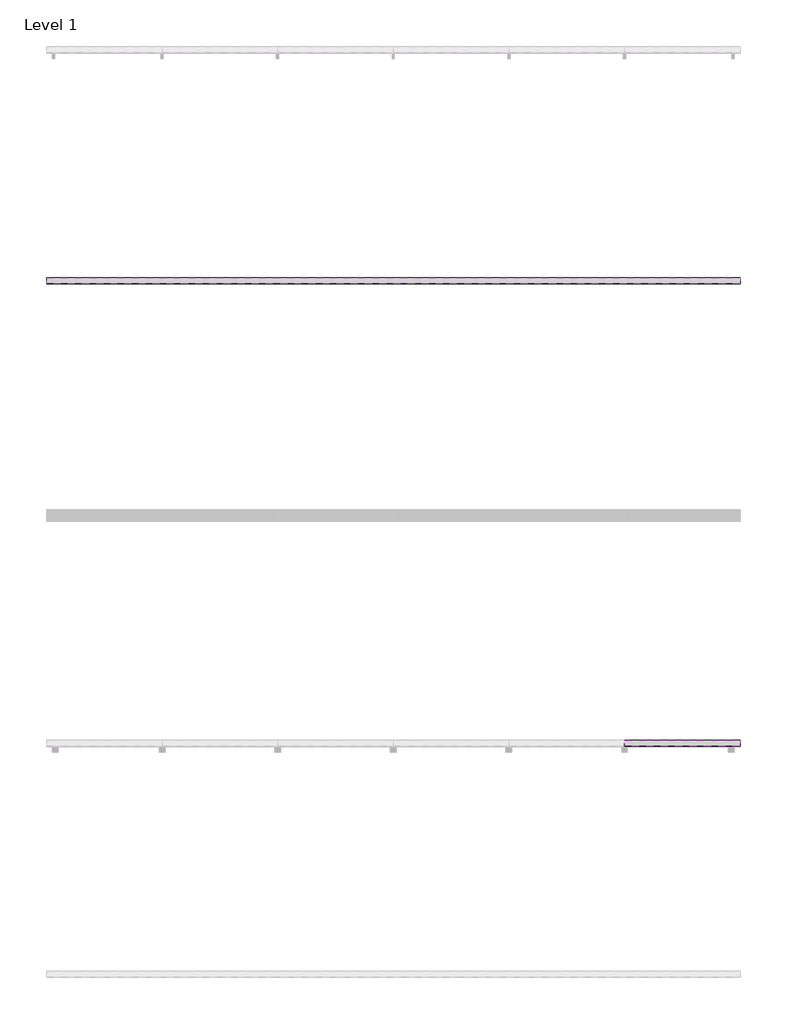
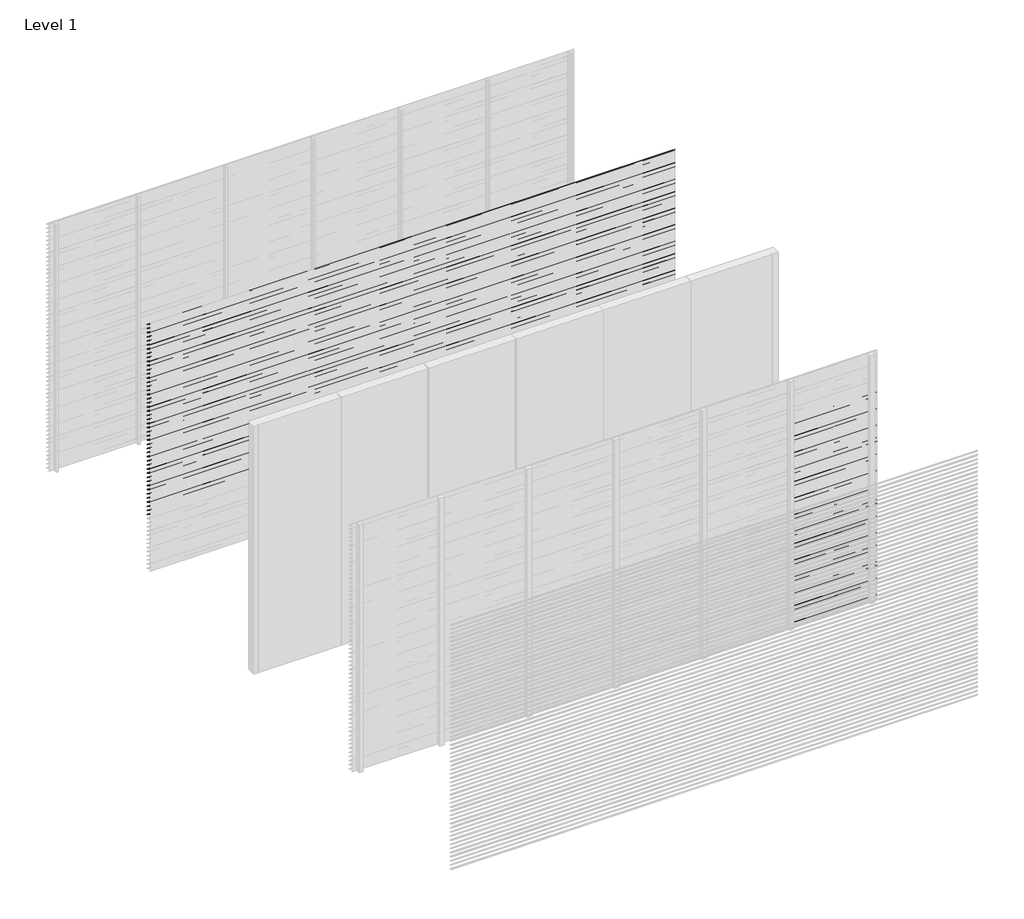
# One storey, part 10 of 18: 97 proxies.
"""IFC4 building model written with IfcOpenShell, lengths in millimetres."""

import ifcopenshell
import ifcopenshell.guid

model = None  # the IFC model being written
_history = None  # IfcOwnerHistory: only IFC2X3 demands one
_inside = {}  # id of a spatial element -> (the spatial element, [elements in it])
_under = {}  # id of a project, library or spatial element -> (it, [spatial elements below it])
_declared = {}  # id of a project -> (the project, [libraries it declares])
_typed = {}  # id of a type object -> (the type object, [elements of that type])
_made_of = {}  # id of a material, layer set ... -> (it, [elements and type objects made of it])


def new_model(schema):
    """Start an empty IFC model of exactly this schema.

    Asked for "IFC4X3", IfcOpenShell would pick the latest addendum, in which some entities
    have other attributes; the version numbers below select the first issue.
    IFC2X3 requires an IfcOwnerHistory on every rooted entity: one is made here for all.
    """
    global model, _history
    if schema == "IFC4X3":
        model = ifcopenshell.file(schema_version=(4, 3, 0, 0))
    else:
        model = ifcopenshell.file(schema=schema)
    _inside.clear()
    _under.clear()
    _declared.clear()
    _typed.clear()
    _made_of.clear()
    _history = None
    if model.schema == "IFC2X3":
        org = make("IfcOrganization", Name="unknown")
        user = make(
            "IfcPersonAndOrganization",
            ThePerson=make("IfcPerson", FamilyName="unknown"),
            TheOrganization=org,
        )
        app = make(
            "IfcApplication",
            ApplicationDeveloper=org,
            Version="unknown",
            ApplicationFullName="unknown",
            ApplicationIdentifier="unknown",
        )
        _history = make(
            "IfcOwnerHistory",
            OwningUser=user,
            OwningApplication=app,
            ChangeAction="ADDED",
            CreationDate=0,
        )
    return model


def make(cls, **values):
    """One entity of the class cls with the attributes given. An attribute that is None is left unset."""
    return model.create_entity(
        cls, **{name: value for name, value in values.items() if value is not None}
    )


def rooted(cls, **values):
    """An entity with a GlobalId (a new one), such as an element, a storey or a relation."""
    return make(cls, GlobalId=ifcopenshell.guid.new(), OwnerHistory=_history, **values)


def si_unit(unit_type, name, prefix=None):
    """IfcSIUnit, for example si_unit("LENGTHUNIT", "METRE", prefix="MILLI")."""
    return make("IfcSIUnit", UnitType=unit_type, Prefix=prefix, Name=name)


def assignment(units):
    """IfcUnitAssignment: the units of a project."""
    return None if units is None else make("IfcUnitAssignment", Units=units)


def point(xyz):
    """IfcCartesianPoint."""
    return None if xyz is None else make("IfcCartesianPoint", Coordinates=xyz)


def direction(xyz):
    """IfcDirection."""
    return None if xyz is None else make("IfcDirection", DirectionRatios=xyz)


def frame(location, z_axis=None, x_axis=None):
    """IfcAxis2Placement3D, a coordinate frame: its origin and axes. An axis left out is left unset."""
    return make(
        "IfcAxis2Placement3D",
        Location=point(location),
        Axis=direction(z_axis),
        RefDirection=direction(x_axis),
    )


def origin():
    """The frame at (0, 0, 0) with its axes left unset."""
    return frame((0.0, 0.0, 0.0))


def place(relative_to, where):
    """IfcLocalPlacement: puts the frame where relative to a parent placement (None: the world)."""
    return make(
        "IfcLocalPlacement", PlacementRelTo=relative_to, RelativePlacement=where
    )


def context(
    kind, dimensions, precision=None, world=None, true_north=None, identifier=None
):
    """IfcGeometricRepresentationContext, for example the 3D "Model" context."""
    return make(
        "IfcGeometricRepresentationContext",
        ContextIdentifier=identifier,
        ContextType=kind,
        CoordinateSpaceDimension=dimensions,
        Precision=precision,
        WorldCoordinateSystem=world,
        TrueNorth=true_north,
    )


def project(units=None, contexts=None):
    """IfcProject with its units and contexts."""
    return rooted(
        "IfcProject",
        Name="project",
        RepresentationContexts=contexts,
        UnitsInContext=assignment(units),
    )


def spatial(cls, under=None, at=None, **own):
    """A site, building, storey or space (cls), placed at a placement, below another one or the project."""
    s = rooted(cls, ObjectPlacement=at, **own)
    if under is not None:
        _under.setdefault(under.id(), (under, []))[1].append(s)
    return s


def polyline(points):
    """IfcPolyline through the points."""
    return make("IfcPolyline", Points=[point(p) for p in points])


def outline(outer, holes=None, kind="AREA"):
    """IfcArbitraryClosedProfileDef: a profile drawn as a closed curve; with holes, ...WithVoids."""
    if holes is None:
        return make("IfcArbitraryClosedProfileDef", ProfileType=kind, OuterCurve=outer)
    return make(
        "IfcArbitraryProfileDefWithVoids",
        ProfileType=kind,
        OuterCurve=outer,
        InnerCurves=holes,
    )


def extrude(swept, where, along, depth):
    """IfcExtrudedAreaSolid: the profile swept, set in the frame where, extruded along a direction by depth."""
    return make(
        "IfcExtrudedAreaSolid",
        SweptArea=swept,
        Position=where,
        ExtrudedDirection=direction(along),
        Depth=depth,
    )


def shape(context_of_items, identifier, shape_type, items):
    """IfcShapeRepresentation: the items that make up one representation, for example the "Body"."""
    return make(
        "IfcShapeRepresentation",
        ContextOfItems=context_of_items,
        RepresentationIdentifier=identifier,
        RepresentationType=shape_type,
        Items=items,
    )


def made_of(thing, what):
    """Note that an element or type object is made of a material, layer set ...; save() writes the relation."""
    if what is not None:
        _made_of.setdefault(what.id(), (what, []))[1].append(thing)
    return thing


def element(
    cls,
    number,
    at=None,
    inside=None,
    cuts=None,
    type_object=None,
    material=None,
    context=None,
    identifier="Body",
    shape_type=None,
    held_by="IfcProductDefinitionShape",
    body=None,
    shapes=None,
    **own,
):
    """One element of the class cls, such as IfcWall. Its Tag is "e" and its number.

    at: its placement. inside: the storey or other place that contains it. cuts: it is an
    opening in that element (IfcRelVoidsElement). A single representation is given by context,
    identifier, shape_type and body (its items); several are given by shapes. held_by: the class
    of the entity that holds the representations. save() writes the other relations.
    """
    e = rooted(cls, Tag="e%d" % number, ObjectPlacement=at, **own)
    if body is not None:
        shapes = [shape(context, identifier, shape_type, body)]
    if shapes is not None:
        e.Representation = make(held_by, Representations=shapes)
    if inside is not None:
        _inside.setdefault(inside.id(), (inside, []))[1].append(e)
    if cuts is not None:
        rooted(
            "IfcRelVoidsElement", RelatingBuildingElement=cuts, RelatedOpeningElement=e
        )
    if type_object is not None:
        _typed.setdefault(type_object.id(), (type_object, []))[1].append(e)
    return made_of(e, material)


def aggregate(whole, parts):
    """IfcRelAggregates: a whole, such as a stair, and the parts it consists of."""
    return rooted("IfcRelAggregates", RelatingObject=whole, RelatedObjects=parts)


def save(model, path):
    """Write the relations noted so far, then the file.

    IfcRelAggregates (storeys below a building ...), IfcRelContainedInSpatialStructure (elements
    in a storey), IfcRelDefinesByType, IfcRelAssociatesMaterial and IfcRelDeclares: one each for
    every whole, place, type object, material and project.
    """
    for whole, parts in _under.values():
        aggregate(whole, parts)
    for where, things in _inside.values():
        rooted(
            "IfcRelContainedInSpatialStructure",
            RelatedElements=things,
            RelatingStructure=where,
        )
    for kind, things in _typed.values():
        rooted("IfcRelDefinesByType", RelatedObjects=things, RelatingType=kind)
    for what, things in _made_of.values():
        rooted("IfcRelAssociatesMaterial", RelatedObjects=things, RelatingMaterial=what)
    for by, libraries in _declared.values():
        rooted("IfcRelDeclares", RelatingContext=by, RelatedDefinitions=libraries)
    model.write(path)


model = new_model("IFC4")

# Units and contexts
model_context = context("Model", 3, world=origin())
ifc_project = project(units=[si_unit("LENGTHUNIT", "METRE", prefix="MILLI")], contexts=[model_context])

# Site, building, storey
site = spatial("IfcSite", under=ifc_project)
building = spatial("IfcBuilding", under=site)
storey = spatial("IfcBuildingStorey", under=building, Name="Level 1", Elevation=0.0)

# Proxies
placement = place(None, origin())
element("IfcBuildingElementProxy", 1, Name="Wall Sweeps", at=placement, inside=storey, context=model_context, shape_type="SweptSolid", body=[
    extrude(outline(polyline([(-7995.0, 3000.0), (-7995.0, 2991.0744429), (-7943.0, 2956.0), (-7943.0, 2950.0), (-7997.0, 2986.4234599), (-7997.0, 3000.0), (-7995.0, 3000.0)])), frame((0.0, 0.0, 0.0), z_axis=(1.0, 0.0, 0.0), x_axis=(0.0, 1.0, 0.0)), (0.0, 0.0, 1.0), 6000.0),
])
element("IfcBuildingElementProxy", 2, Name="Wall Sweeps", at=placement, inside=storey, context=model_context, shape_type="SweptSolid", body=[
    extrude(outline(polyline([(-7995.0, 2950.0), (-7995.0, 2941.0744429), (-7943.0, 2906.0), (-7943.0, 2900.0), (-7997.0, 2936.4234599), (-7997.0, 2950.0), (-7995.0, 2950.0)])), frame((0.0, 0.0, 0.0), z_axis=(1.0, 0.0, 0.0), x_axis=(0.0, 1.0, 0.0)), (0.0, 0.0, 1.0), 6000.0),
])
element("IfcBuildingElementProxy", 3, Name="Wall Sweeps", at=placement, inside=storey, context=model_context, shape_type="SweptSolid", body=[
    extrude(outline(polyline([(-7995.0, 2900.0), (-7995.0, 2891.0744429), (-7943.0, 2856.0), (-7943.0, 2850.0), (-7997.0, 2886.4234599), (-7997.0, 2900.0), (-7995.0, 2900.0)])), frame((0.0, 0.0, 0.0), z_axis=(1.0, 0.0, 0.0), x_axis=(0.0, 1.0, 0.0)), (0.0, 0.0, 1.0), 6000.0),
])
element("IfcBuildingElementProxy", 4, Name="Wall Sweeps", at=placement, inside=storey, context=model_context, shape_type="SweptSolid", body=[
    extrude(outline(polyline([(-7995.0, 2850.0), (-7995.0, 2841.0744429), (-7943.0, 2806.0), (-7943.0, 2800.0), (-7997.0, 2836.4234599), (-7997.0, 2850.0), (-7995.0, 2850.0)])), frame((0.0, 0.0, 0.0), z_axis=(1.0, 0.0, 0.0), x_axis=(0.0, 1.0, 0.0)), (0.0, 0.0, 1.0), 6000.0),
])
element("IfcBuildingElementProxy", 5, Name="Wall Sweeps", at=placement, inside=storey, context=model_context, shape_type="SweptSolid", body=[
    extrude(outline(polyline([(-7995.0, 2800.0), (-7995.0, 2791.0744429), (-7943.0, 2756.0), (-7943.0, 2750.0), (-7997.0, 2786.4234599), (-7997.0, 2800.0), (-7995.0, 2800.0)])), frame((0.0, 0.0, 0.0), z_axis=(1.0, 0.0, 0.0), x_axis=(0.0, 1.0, 0.0)), (0.0, 0.0, 1.0), 6000.0),
])
element("IfcBuildingElementProxy", 6, Name="Wall Sweeps", at=placement, inside=storey, context=model_context, shape_type="SweptSolid", body=[
    extrude(outline(polyline([(-7995.0, 2750.0), (-7995.0, 2741.0744429), (-7943.0, 2706.0), (-7943.0, 2700.0), (-7997.0, 2736.4234599), (-7997.0, 2750.0), (-7995.0, 2750.0)])), frame((0.0, 0.0, 0.0), z_axis=(1.0, 0.0, 0.0), x_axis=(0.0, 1.0, 0.0)), (0.0, 0.0, 1.0), 6000.0),
])
element("IfcBuildingElementProxy", 7, Name="Wall Sweeps", at=placement, inside=storey, context=model_context, shape_type="SweptSolid", body=[
    extrude(outline(polyline([(-7995.0, 2700.0), (-7995.0, 2691.0744429), (-7943.0, 2656.0), (-7943.0, 2650.0), (-7997.0, 2686.4234599), (-7997.0, 2700.0), (-7995.0, 2700.0)])), frame((0.0, 0.0, 0.0), z_axis=(1.0, 0.0, 0.0), x_axis=(0.0, 1.0, 0.0)), (0.0, 0.0, 1.0), 6000.0),
])
element("IfcBuildingElementProxy", 8, Name="Wall Sweeps", at=placement, inside=storey, context=model_context, shape_type="SweptSolid", body=[
    extrude(outline(polyline([(-7995.0, 2650.0), (-7995.0, 2641.0744429), (-7943.0, 2606.0), (-7943.0, 2600.0), (-7997.0, 2636.4234599), (-7997.0, 2650.0), (-7995.0, 2650.0)])), frame((0.0, 0.0, 0.0), z_axis=(1.0, 0.0, 0.0), x_axis=(0.0, 1.0, 0.0)), (0.0, 0.0, 1.0), 6000.0),
])
element("IfcBuildingElementProxy", 9, Name="Wall Sweeps", at=placement, inside=storey, context=model_context, shape_type="SweptSolid", body=[
    extrude(outline(polyline([(-7995.0, 2600.0), (-7995.0, 2591.0744429), (-7943.0, 2556.0), (-7943.0, 2550.0), (-7997.0, 2586.4234599), (-7997.0, 2600.0), (-7995.0, 2600.0)])), frame((0.0, 0.0, 0.0), z_axis=(1.0, 0.0, 0.0), x_axis=(0.0, 1.0, 0.0)), (0.0, 0.0, 1.0), 6000.0),
])
element("IfcBuildingElementProxy", 10, Name="Wall Sweeps", at=placement, inside=storey, context=model_context, shape_type="SweptSolid", body=[
    extrude(outline(polyline([(-7995.0, 2550.0), (-7995.0, 2541.0744429), (-7943.0, 2506.0), (-7943.0, 2500.0), (-7997.0, 2536.4234599), (-7997.0, 2550.0), (-7995.0, 2550.0)])), frame((0.0, 0.0, 0.0), z_axis=(1.0, 0.0, 0.0), x_axis=(0.0, 1.0, 0.0)), (0.0, 0.0, 1.0), 6000.0),
])
element("IfcBuildingElementProxy", 11, Name="Wall Sweeps", at=placement, inside=storey, context=model_context, shape_type="SweptSolid", body=[
    extrude(outline(polyline([(-7995.0, 2500.0), (-7995.0, 2491.0744429), (-7943.0, 2456.0), (-7943.0, 2450.0), (-7997.0, 2486.4234599), (-7997.0, 2500.0), (-7995.0, 2500.0)])), frame((0.0, 0.0, 0.0), z_axis=(1.0, 0.0, 0.0), x_axis=(0.0, 1.0, 0.0)), (0.0, 0.0, 1.0), 6000.0),
])
element("IfcBuildingElementProxy", 12, Name="Wall Sweeps", at=placement, inside=storey, context=model_context, shape_type="SweptSolid", body=[
    extrude(outline(polyline([(-7995.0, 2450.0), (-7995.0, 2441.0744429), (-7943.0, 2406.0), (-7943.0, 2400.0), (-7997.0, 2436.4234599), (-7997.0, 2450.0), (-7995.0, 2450.0)])), frame((0.0, 0.0, 0.0), z_axis=(1.0, 0.0, 0.0), x_axis=(0.0, 1.0, 0.0)), (0.0, 0.0, 1.0), 6000.0),
])
element("IfcBuildingElementProxy", 13, Name="Wall Sweeps", at=placement, inside=storey, context=model_context, shape_type="SweptSolid", body=[
    extrude(outline(polyline([(-7995.0, 2400.0), (-7995.0, 2391.0744429), (-7943.0, 2356.0), (-7943.0, 2350.0), (-7997.0, 2386.4234599), (-7997.0, 2400.0), (-7995.0, 2400.0)])), frame((0.0, 0.0, 0.0), z_axis=(1.0, 0.0, 0.0), x_axis=(0.0, 1.0, 0.0)), (0.0, 0.0, 1.0), 6000.0),
])
element("IfcBuildingElementProxy", 14, Name="Wall Sweeps", at=placement, inside=storey, context=model_context, shape_type="SweptSolid", body=[
    extrude(outline(polyline([(-7995.0, 2350.0), (-7995.0, 2341.0744429), (-7943.0, 2306.0), (-7943.0, 2300.0), (-7997.0, 2336.4234599), (-7997.0, 2350.0), (-7995.0, 2350.0)])), frame((0.0, 0.0, 0.0), z_axis=(1.0, 0.0, 0.0), x_axis=(0.0, 1.0, 0.0)), (0.0, 0.0, 1.0), 6000.0),
])
element("IfcBuildingElementProxy", 15, Name="Wall Sweeps", at=placement, inside=storey, context=model_context, shape_type="SweptSolid", body=[
    extrude(outline(polyline([(-7995.0, 2300.0), (-7995.0, 2291.0744429), (-7943.0, 2256.0), (-7943.0, 2250.0), (-7997.0, 2286.4234599), (-7997.0, 2300.0), (-7995.0, 2300.0)])), frame((0.0, 0.0, 0.0), z_axis=(1.0, 0.0, 0.0), x_axis=(0.0, 1.0, 0.0)), (0.0, 0.0, 1.0), 6000.0),
])
element("IfcBuildingElementProxy", 16, Name="Wall Sweeps", at=placement, inside=storey, context=model_context, shape_type="SweptSolid", body=[
    extrude(outline(polyline([(-7995.0, 2250.0), (-7995.0, 2241.0744429), (-7943.0, 2206.0), (-7943.0, 2200.0), (-7997.0, 2236.4234599), (-7997.0, 2250.0), (-7995.0, 2250.0)])), frame((0.0, 0.0, 0.0), z_axis=(1.0, 0.0, 0.0), x_axis=(0.0, 1.0, 0.0)), (0.0, 0.0, 1.0), 6000.0),
])
element("IfcBuildingElementProxy", 17, Name="Wall Sweeps", at=placement, inside=storey, context=model_context, shape_type="SweptSolid", body=[
    extrude(outline(polyline([(-7995.0, 2200.0), (-7995.0, 2191.0744429), (-7943.0, 2156.0), (-7943.0, 2150.0), (-7997.0, 2186.4234599), (-7997.0, 2200.0), (-7995.0, 2200.0)])), frame((0.0, 0.0, 0.0), z_axis=(1.0, 0.0, 0.0), x_axis=(0.0, 1.0, 0.0)), (0.0, 0.0, 1.0), 6000.0),
])
element("IfcBuildingElementProxy", 18, Name="Wall Sweeps", at=placement, inside=storey, context=model_context, shape_type="SweptSolid", body=[
    extrude(outline(polyline([(-7995.0, 2150.0), (-7995.0, 2141.0744429), (-7943.0, 2106.0), (-7943.0, 2100.0), (-7997.0, 2136.4234599), (-7997.0, 2150.0), (-7995.0, 2150.0)])), frame((0.0, 0.0, 0.0), z_axis=(1.0, 0.0, 0.0), x_axis=(0.0, 1.0, 0.0)), (0.0, 0.0, 1.0), 6000.0),
])
element("IfcBuildingElementProxy", 19, Name="Wall Sweeps", at=placement, inside=storey, context=model_context, shape_type="SweptSolid", body=[
    extrude(outline(polyline([(-7995.0, 2100.0), (-7995.0, 2091.0744429), (-7943.0, 2056.0), (-7943.0, 2050.0), (-7997.0, 2086.4234599), (-7997.0, 2100.0), (-7995.0, 2100.0)])), frame((0.0, 0.0, 0.0), z_axis=(1.0, 0.0, 0.0), x_axis=(0.0, 1.0, 0.0)), (0.0, 0.0, 1.0), 6000.0),
])
element("IfcBuildingElementProxy", 20, Name="Wall Sweeps", at=placement, inside=storey, context=model_context, shape_type="SweptSolid", body=[
    extrude(outline(polyline([(-7995.0, 2050.0), (-7995.0, 2041.0744429), (-7943.0, 2006.0), (-7943.0, 2000.0), (-7997.0, 2036.4234599), (-7997.0, 2050.0), (-7995.0, 2050.0)])), frame((0.0, 0.0, 0.0), z_axis=(1.0, 0.0, 0.0), x_axis=(0.0, 1.0, 0.0)), (0.0, 0.0, 1.0), 6000.0),
])
element("IfcBuildingElementProxy", 21, Name="Wall Sweeps", at=placement, inside=storey, context=model_context, shape_type="SweptSolid", body=[
    extrude(outline(polyline([(-7995.0, 2000.0), (-7995.0, 1991.0744429), (-7943.0, 1956.0), (-7943.0, 1950.0), (-7997.0, 1986.4234599), (-7997.0, 2000.0), (-7995.0, 2000.0)])), frame((0.0, 0.0, 0.0), z_axis=(1.0, 0.0, 0.0), x_axis=(0.0, 1.0, 0.0)), (0.0, 0.0, 1.0), 6000.0),
])
element("IfcBuildingElementProxy", 22, Name="Wall Sweeps", at=placement, inside=storey, context=model_context, shape_type="SweptSolid", body=[
    extrude(outline(polyline([(-7995.0, 1950.0), (-7995.0, 1941.0744429), (-7943.0, 1906.0), (-7943.0, 1900.0), (-7997.0, 1936.4234599), (-7997.0, 1950.0), (-7995.0, 1950.0)])), frame((0.0, 0.0, 0.0), z_axis=(1.0, 0.0, 0.0), x_axis=(0.0, 1.0, 0.0)), (0.0, 0.0, 1.0), 6000.0),
])
element("IfcBuildingElementProxy", 23, Name="Wall Sweeps", at=placement, inside=storey, context=model_context, shape_type="SweptSolid", body=[
    extrude(outline(polyline([(-7995.0, 1900.0), (-7995.0, 1891.0744429), (-7943.0, 1856.0), (-7943.0, 1850.0), (-7997.0, 1886.4234599), (-7997.0, 1900.0), (-7995.0, 1900.0)])), frame((0.0, 0.0, 0.0), z_axis=(1.0, 0.0, 0.0), x_axis=(0.0, 1.0, 0.0)), (0.0, 0.0, 1.0), 6000.0),
])
element("IfcBuildingElementProxy", 24, Name="Wall Sweeps", at=placement, inside=storey, context=model_context, shape_type="SweptSolid", body=[
    extrude(outline(polyline([(-7995.0, 1850.0), (-7995.0, 1841.0744429), (-7943.0, 1806.0), (-7943.0, 1800.0), (-7997.0, 1836.4234599), (-7997.0, 1850.0), (-7995.0, 1850.0)])), frame((0.0, 0.0, 0.0), z_axis=(1.0, 0.0, 0.0), x_axis=(0.0, 1.0, 0.0)), (0.0, 0.0, 1.0), 6000.0),
])
element("IfcBuildingElementProxy", 25, Name="Wall Sweeps", at=placement, inside=storey, context=model_context, shape_type="SweptSolid", body=[
    extrude(outline(polyline([(-7995.0, 1800.0), (-7995.0, 1791.0744429), (-7943.0, 1756.0), (-7943.0, 1750.0), (-7997.0, 1786.4234599), (-7997.0, 1800.0), (-7995.0, 1800.0)])), frame((0.0, 0.0, 0.0), z_axis=(1.0, 0.0, 0.0), x_axis=(0.0, 1.0, 0.0)), (0.0, 0.0, 1.0), 6000.0),
])
element("IfcBuildingElementProxy", 26, Name="Wall Sweeps", at=placement, inside=storey, context=model_context, shape_type="SweptSolid", body=[
    extrude(outline(polyline([(-7995.0, 1750.0), (-7995.0, 1741.0744429), (-7943.0, 1706.0), (-7943.0, 1700.0), (-7997.0, 1736.4234599), (-7997.0, 1750.0), (-7995.0, 1750.0)])), frame((0.0, 0.0, 0.0), z_axis=(1.0, 0.0, 0.0), x_axis=(0.0, 1.0, 0.0)), (0.0, 0.0, 1.0), 6000.0),
])
element("IfcBuildingElementProxy", 27, Name="Wall Sweeps", at=placement, inside=storey, context=model_context, shape_type="SweptSolid", body=[
    extrude(outline(polyline([(-7995.0, 1700.0), (-7995.0, 1691.0744429), (-7943.0, 1656.0), (-7943.0, 1650.0), (-7997.0, 1686.4234599), (-7997.0, 1700.0), (-7995.0, 1700.0)])), frame((0.0, 0.0, 0.0), z_axis=(1.0, 0.0, 0.0), x_axis=(0.0, 1.0, 0.0)), (0.0, 0.0, 1.0), 6000.0),
])
element("IfcBuildingElementProxy", 28, Name="Wall Sweeps", at=placement, inside=storey, context=model_context, shape_type="SweptSolid", body=[
    extrude(outline(polyline([(-7995.0, 1650.0), (-7995.0, 1641.0744429), (-7943.0, 1606.0), (-7943.0, 1600.0), (-7997.0, 1636.4234599), (-7997.0, 1650.0), (-7995.0, 1650.0)])), frame((0.0, 0.0, 0.0), z_axis=(1.0, 0.0, 0.0), x_axis=(0.0, 1.0, 0.0)), (0.0, 0.0, 1.0), 6000.0),
])
element("IfcBuildingElementProxy", 29, Name="Wall Sweeps", at=placement, inside=storey, context=model_context, shape_type="SweptSolid", body=[
    extrude(outline(polyline([(-7995.0, 1600.0), (-7995.0, 1591.0744429), (-7943.0, 1556.0), (-7943.0, 1550.0), (-7997.0, 1586.4234599), (-7997.0, 1600.0), (-7995.0, 1600.0)])), frame((0.0, 0.0, 0.0), z_axis=(1.0, 0.0, 0.0), x_axis=(0.0, 1.0, 0.0)), (0.0, 0.0, 1.0), 6000.0),
])
element("IfcBuildingElementProxy", 30, Name="Wall Sweeps", at=placement, inside=storey, context=model_context, shape_type="SweptSolid", body=[
    extrude(outline(polyline([(-7995.0, 1550.0), (-7995.0, 1541.0744429), (-7943.0, 1506.0), (-7943.0, 1500.0), (-7997.0, 1536.4234599), (-7997.0, 1550.0), (-7995.0, 1550.0)])), frame((0.0, 0.0, 0.0), z_axis=(1.0, 0.0, 0.0), x_axis=(0.0, 1.0, 0.0)), (0.0, 0.0, 1.0), 6000.0),
])
element("IfcBuildingElementProxy", 31, Name="Wall Sweeps", at=placement, inside=storey, context=model_context, shape_type="SweptSolid", body=[
    extrude(outline(polyline([(-7995.0, 1500.0), (-7995.0, 1491.0744429), (-7943.0, 1456.0), (-7943.0, 1450.0), (-7997.0, 1486.4234599), (-7997.0, 1500.0), (-7995.0, 1500.0)])), frame((0.0, 0.0, 0.0), z_axis=(1.0, 0.0, 0.0), x_axis=(0.0, 1.0, 0.0)), (0.0, 0.0, 1.0), 6000.0),
])
element("IfcBuildingElementProxy", 32, Name="Wall Sweeps", at=placement, inside=storey, context=model_context, shape_type="SweptSolid", body=[
    extrude(outline(polyline([(-7995.0, 1450.0), (-7995.0, 1441.0744429), (-7943.0, 1406.0), (-7943.0, 1400.0), (-7997.0, 1436.4234599), (-7997.0, 1450.0), (-7995.0, 1450.0)])), frame((0.0, 0.0, 0.0), z_axis=(1.0, 0.0, 0.0), x_axis=(0.0, 1.0, 0.0)), (0.0, 0.0, 1.0), 6000.0),
])
element("IfcBuildingElementProxy", 33, Name="Wall Sweeps", at=placement, inside=storey, context=model_context, shape_type="SweptSolid", body=[
    extrude(outline(polyline([(-7995.0, 1400.0), (-7995.0, 1391.0744429), (-7943.0, 1356.0), (-7943.0, 1350.0), (-7997.0, 1386.4234599), (-7997.0, 1400.0), (-7995.0, 1400.0)])), frame((0.0, 0.0, 0.0), z_axis=(1.0, 0.0, 0.0), x_axis=(0.0, 1.0, 0.0)), (0.0, 0.0, 1.0), 6000.0),
])
element("IfcBuildingElementProxy", 34, Name="Wall Sweeps", at=placement, inside=storey, context=model_context, shape_type="SweptSolid", body=[
    extrude(outline(polyline([(-7995.0, 1350.0), (-7995.0, 1341.0744429), (-7943.0, 1306.0), (-7943.0, 1300.0), (-7997.0, 1336.4234599), (-7997.0, 1350.0), (-7995.0, 1350.0)])), frame((0.0, 0.0, 0.0), z_axis=(1.0, 0.0, 0.0), x_axis=(0.0, 1.0, 0.0)), (0.0, 0.0, 1.0), 6000.0),
])
element("IfcBuildingElementProxy", 35, Name="Wall Sweeps", at=placement, inside=storey, context=model_context, shape_type="SweptSolid", body=[
    extrude(outline(polyline([(-7995.0, 1300.0), (-7995.0, 1291.0744429), (-7943.0, 1256.0), (-7943.0, 1250.0), (-7997.0, 1286.4234599), (-7997.0, 1300.0), (-7995.0, 1300.0)])), frame((0.0, 0.0, 0.0), z_axis=(1.0, 0.0, 0.0), x_axis=(0.0, 1.0, 0.0)), (0.0, 0.0, 1.0), 6000.0),
])
element("IfcBuildingElementProxy", 36, Name="Wall Sweeps", at=placement, inside=storey, context=model_context, shape_type="SweptSolid", body=[
    extrude(outline(polyline([(-7995.0, 1250.0), (-7995.0, 1241.0744429), (-7943.0, 1206.0), (-7943.0, 1200.0), (-7997.0, 1236.4234599), (-7997.0, 1250.0), (-7995.0, 1250.0)])), frame((0.0, 0.0, 0.0), z_axis=(1.0, 0.0, 0.0), x_axis=(0.0, 1.0, 0.0)), (0.0, 0.0, 1.0), 6000.0),
])
element("IfcBuildingElementProxy", 37, Name="Wall Sweeps", at=placement, inside=storey, context=model_context, shape_type="SweptSolid", body=[
    extrude(outline(polyline([(-7995.0, 1200.0), (-7995.0, 1191.0744429), (-7943.0, 1156.0), (-7943.0, 1150.0), (-7997.0, 1186.4234599), (-7997.0, 1200.0), (-7995.0, 1200.0)])), frame((0.0, 0.0, 0.0), z_axis=(1.0, 0.0, 0.0), x_axis=(0.0, 1.0, 0.0)), (0.0, 0.0, 1.0), 6000.0),
])
element("IfcBuildingElementProxy", 38, Name="Wall Sweeps", at=placement, inside=storey, context=model_context, shape_type="SweptSolid", body=[
    extrude(outline(polyline([(-7995.0, 1150.0), (-7995.0, 1141.0744429), (-7943.0, 1106.0), (-7943.0, 1100.0), (-7997.0, 1136.4234599), (-7997.0, 1150.0), (-7995.0, 1150.0)])), frame((0.0, 0.0, 0.0), z_axis=(1.0, 0.0, 0.0), x_axis=(0.0, 1.0, 0.0)), (0.0, 0.0, 1.0), 6000.0),
])
element("IfcBuildingElementProxy", 39, Name="Wall Sweeps", at=placement, inside=storey, context=model_context, shape_type="SweptSolid", body=[
    extrude(outline(polyline([(-7995.0, 1100.0), (-7995.0, 1091.0744429), (-7943.0, 1056.0), (-7943.0, 1050.0), (-7997.0, 1086.4234599), (-7997.0, 1100.0), (-7995.0, 1100.0)])), frame((0.0, 0.0, 0.0), z_axis=(1.0, 0.0, 0.0), x_axis=(0.0, 1.0, 0.0)), (0.0, 0.0, 1.0), 6000.0),
])
element("IfcBuildingElementProxy", 40, Name="Wall Sweeps", at=placement, inside=storey, context=model_context, shape_type="SweptSolid", body=[
    extrude(outline(polyline([(-7995.0, 1050.0), (-7995.0, 1041.0744429), (-7943.0, 1006.0), (-7943.0, 1000.0), (-7997.0, 1036.4234599), (-7997.0, 1050.0), (-7995.0, 1050.0)])), frame((0.0, 0.0, 0.0), z_axis=(1.0, 0.0, 0.0), x_axis=(0.0, 1.0, 0.0)), (0.0, 0.0, 1.0), 6000.0),
])
element("IfcBuildingElementProxy", 41, Name="Wall Sweeps", at=placement, inside=storey, context=model_context, shape_type="SweptSolid", body=[
    extrude(outline(polyline([(-7995.0, 1000.0), (-7995.0, 991.0744429), (-7943.0, 956.0), (-7943.0, 950.0), (-7997.0, 986.4234599), (-7997.0, 1000.0), (-7995.0, 1000.0)])), frame((0.0, 0.0, 0.0), z_axis=(1.0, 0.0, 0.0), x_axis=(0.0, 1.0, 0.0)), (0.0, 0.0, 1.0), 6000.0),
])
element("IfcBuildingElementProxy", 42, Name="Wall Sweeps", at=placement, inside=storey, context=model_context, shape_type="SweptSolid", body=[
    extrude(outline(polyline([(-7995.0, 950.0), (-7995.0, 941.0744429), (-7943.0, 906.0), (-7943.0, 900.0), (-7997.0, 936.4234599), (-7997.0, 950.0), (-7995.0, 950.0)])), frame((0.0, 0.0, 0.0), z_axis=(1.0, 0.0, 0.0), x_axis=(0.0, 1.0, 0.0)), (0.0, 0.0, 1.0), 6000.0),
])
element("IfcBuildingElementProxy", 43, Name="Wall Sweeps", at=placement, inside=storey, context=model_context, shape_type="SweptSolid", body=[
    extrude(outline(polyline([(-7995.0, 900.0), (-7995.0, 891.0744429), (-7943.0, 856.0), (-7943.0, 850.0), (-7997.0, 886.4234599), (-7997.0, 900.0), (-7995.0, 900.0)])), frame((0.0, 0.0, 0.0), z_axis=(1.0, 0.0, 0.0), x_axis=(0.0, 1.0, 0.0)), (0.0, 0.0, 1.0), 6000.0),
])
element("IfcBuildingElementProxy", 44, Name="Wall Sweeps", at=placement, inside=storey, context=model_context, shape_type="SweptSolid", body=[
    extrude(outline(polyline([(-7995.0, 850.0), (-7995.0, 841.0744429), (-7943.0, 806.0), (-7943.0, 800.0), (-7997.0, 836.4234599), (-7997.0, 850.0), (-7995.0, 850.0)])), frame((0.0, 0.0, 0.0), z_axis=(1.0, 0.0, 0.0), x_axis=(0.0, 1.0, 0.0)), (0.0, 0.0, 1.0), 6000.0),
])
element("IfcBuildingElementProxy", 45, Name="Wall Sweeps", at=placement, inside=storey, context=model_context, shape_type="SweptSolid", body=[
    extrude(outline(polyline([(-7995.0, 800.0), (-7995.0, 791.0744429), (-7943.0, 756.0), (-7943.0, 750.0), (-7997.0, 786.4234599), (-7997.0, 800.0), (-7995.0, 800.0)])), frame((0.0, 0.0, 0.0), z_axis=(1.0, 0.0, 0.0), x_axis=(0.0, 1.0, 0.0)), (0.0, 0.0, 1.0), 6000.0),
])
element("IfcBuildingElementProxy", 46, Name="Wall Sweeps", at=placement, inside=storey, context=model_context, shape_type="SweptSolid", body=[
    extrude(outline(polyline([(-7995.0, 750.0), (-7995.0, 741.0744429), (-7943.0, 706.0), (-7943.0, 700.0), (-7997.0, 736.4234599), (-7997.0, 750.0), (-7995.0, 750.0)])), frame((0.0, 0.0, 0.0), z_axis=(1.0, 0.0, 0.0), x_axis=(0.0, 1.0, 0.0)), (0.0, 0.0, 1.0), 6000.0),
])
element("IfcBuildingElementProxy", 47, Name="Wall Sweeps", at=placement, inside=storey, context=model_context, shape_type="SweptSolid", body=[
    extrude(outline(polyline([(-7995.0, 700.0), (-7995.0, 691.0744429), (-7943.0, 656.0), (-7943.0, 650.0), (-7997.0, 686.4234599), (-7997.0, 700.0), (-7995.0, 700.0)])), frame((0.0, 0.0, 0.0), z_axis=(1.0, 0.0, 0.0), x_axis=(0.0, 1.0, 0.0)), (0.0, 0.0, 1.0), 6000.0),
])
element("IfcBuildingElementProxy", 48, Name="Wall Sweeps", at=placement, inside=storey, context=model_context, shape_type="SweptSolid", body=[
    extrude(outline(polyline([(-11995.0, 2500.0), (-11995.0, 2491.0744429), (-11943.0, 2456.0), (-11943.0, 2450.0), (-11997.0, 2486.4234599), (-11997.0, 2500.0), (-11995.0, 2500.0)])), frame((5000.0, 0.0, 0.0), z_axis=(1.0, 0.0, 0.0), x_axis=(0.0, 1.0, 0.0)), (0.0, 0.0, 1.0), 1000.0),
])
element("IfcBuildingElementProxy", 49, Name="Wall Sweeps", at=placement, inside=storey, context=model_context, shape_type="SweptSolid", body=[
    extrude(outline(polyline([(-11995.0, 2450.0), (-11995.0, 2441.0744429), (-11943.0, 2406.0), (-11943.0, 2400.0), (-11997.0, 2436.4234599), (-11997.0, 2450.0), (-11995.0, 2450.0)])), frame((5000.0, 0.0, 0.0), z_axis=(1.0, 0.0, 0.0), x_axis=(0.0, 1.0, 0.0)), (0.0, 0.0, 1.0), 1000.0),
])
element("IfcBuildingElementProxy", 50, Name="Wall Sweeps", at=placement, inside=storey, context=model_context, shape_type="SweptSolid", body=[
    extrude(outline(polyline([(-11995.0, 2400.0), (-11995.0, 2391.0744429), (-11943.0, 2356.0), (-11943.0, 2350.0), (-11997.0, 2386.4234599), (-11997.0, 2400.0), (-11995.0, 2400.0)])), frame((5000.0, 0.0, 0.0), z_axis=(1.0, 0.0, 0.0), x_axis=(0.0, 1.0, 0.0)), (0.0, 0.0, 1.0), 1000.0),
])
element("IfcBuildingElementProxy", 51, Name="Wall Sweeps", at=placement, inside=storey, context=model_context, shape_type="SweptSolid", body=[
    extrude(outline(polyline([(-11995.0, 2350.0), (-11995.0, 2341.0744429), (-11943.0, 2306.0), (-11943.0, 2300.0), (-11997.0, 2336.4234599), (-11997.0, 2350.0), (-11995.0, 2350.0)])), frame((5000.0, 0.0, 0.0), z_axis=(1.0, 0.0, 0.0), x_axis=(0.0, 1.0, 0.0)), (0.0, 0.0, 1.0), 1000.0),
])
element("IfcBuildingElementProxy", 52, Name="Wall Sweeps", at=placement, inside=storey, context=model_context, shape_type="SweptSolid", body=[
    extrude(outline(polyline([(-11995.0, 2300.0), (-11995.0, 2291.0744429), (-11943.0, 2256.0), (-11943.0, 2250.0), (-11997.0, 2286.4234599), (-11997.0, 2300.0), (-11995.0, 2300.0)])), frame((5000.0, 0.0, 0.0), z_axis=(1.0, 0.0, 0.0), x_axis=(0.0, 1.0, 0.0)), (0.0, 0.0, 1.0), 1000.0),
])
element("IfcBuildingElementProxy", 53, Name="Wall Sweeps", at=placement, inside=storey, context=model_context, shape_type="SweptSolid", body=[
    extrude(outline(polyline([(-11995.0, 2250.0), (-11995.0, 2241.0744429), (-11943.0, 2206.0), (-11943.0, 2200.0), (-11997.0, 2236.4234599), (-11997.0, 2250.0), (-11995.0, 2250.0)])), frame((5000.0, 0.0, 0.0), z_axis=(1.0, 0.0, 0.0), x_axis=(0.0, 1.0, 0.0)), (0.0, 0.0, 1.0), 1000.0),
])
element("IfcBuildingElementProxy", 54, Name="Wall Sweeps", at=placement, inside=storey, context=model_context, shape_type="SweptSolid", body=[
    extrude(outline(polyline([(-11995.0, 2200.0), (-11995.0, 2191.0744429), (-11943.0, 2156.0), (-11943.0, 2150.0), (-11997.0, 2186.4234599), (-11997.0, 2200.0), (-11995.0, 2200.0)])), frame((5000.0, 0.0, 0.0), z_axis=(1.0, 0.0, 0.0), x_axis=(0.0, 1.0, 0.0)), (0.0, 0.0, 1.0), 1000.0),
])
element("IfcBuildingElementProxy", 55, Name="Wall Sweeps", at=placement, inside=storey, context=model_context, shape_type="SweptSolid", body=[
    extrude(outline(polyline([(-11995.0, 2150.0), (-11995.0, 2141.0744429), (-11943.0, 2106.0), (-11943.0, 2100.0), (-11997.0, 2136.4234599), (-11997.0, 2150.0), (-11995.0, 2150.0)])), frame((5000.0, 0.0, 0.0), z_axis=(1.0, 0.0, 0.0), x_axis=(0.0, 1.0, 0.0)), (0.0, 0.0, 1.0), 1000.0),
])
element("IfcBuildingElementProxy", 56, Name="Wall Sweeps", at=placement, inside=storey, context=model_context, shape_type="SweptSolid", body=[
    extrude(outline(polyline([(-11995.0, 2100.0), (-11995.0, 2091.0744429), (-11943.0, 2056.0), (-11943.0, 2050.0), (-11997.0, 2086.4234599), (-11997.0, 2100.0), (-11995.0, 2100.0)])), frame((5000.0, 0.0, 0.0), z_axis=(1.0, 0.0, 0.0), x_axis=(0.0, 1.0, 0.0)), (0.0, 0.0, 1.0), 1000.0),
])
element("IfcBuildingElementProxy", 57, Name="Wall Sweeps", at=placement, inside=storey, context=model_context, shape_type="SweptSolid", body=[
    extrude(outline(polyline([(-11995.0, 2050.0), (-11995.0, 2041.0744429), (-11943.0, 2006.0), (-11943.0, 2000.0), (-11997.0, 2036.4234599), (-11997.0, 2050.0), (-11995.0, 2050.0)])), frame((5000.0, 0.0, 0.0), z_axis=(1.0, 0.0, 0.0), x_axis=(0.0, 1.0, 0.0)), (0.0, 0.0, 1.0), 1000.0),
])
element("IfcBuildingElementProxy", 58, Name="Wall Sweeps", at=placement, inside=storey, context=model_context, shape_type="SweptSolid", body=[
    extrude(outline(polyline([(-11995.0, 2000.0), (-11995.0, 1991.0744429), (-11943.0, 1956.0), (-11943.0, 1950.0), (-11997.0, 1986.4234599), (-11997.0, 2000.0), (-11995.0, 2000.0)])), frame((5000.0, 0.0, 0.0), z_axis=(1.0, 0.0, 0.0), x_axis=(0.0, 1.0, 0.0)), (0.0, 0.0, 1.0), 1000.0),
])
element("IfcBuildingElementProxy", 59, Name="Wall Sweeps", at=placement, inside=storey, context=model_context, shape_type="SweptSolid", body=[
    extrude(outline(polyline([(-11995.0, 1950.0), (-11995.0, 1941.0744429), (-11943.0, 1906.0), (-11943.0, 1900.0), (-11997.0, 1936.4234599), (-11997.0, 1950.0), (-11995.0, 1950.0)])), frame((5000.0, 0.0, 0.0), z_axis=(1.0, 0.0, 0.0), x_axis=(0.0, 1.0, 0.0)), (0.0, 0.0, 1.0), 1000.0),
])
element("IfcBuildingElementProxy", 60, Name="Wall Sweeps", at=placement, inside=storey, context=model_context, shape_type="SweptSolid", body=[
    extrude(outline(polyline([(-11995.0, 1900.0), (-11995.0, 1891.0744429), (-11943.0, 1856.0), (-11943.0, 1850.0), (-11997.0, 1886.4234599), (-11997.0, 1900.0), (-11995.0, 1900.0)])), frame((5000.0, 0.0, 0.0), z_axis=(1.0, 0.0, 0.0), x_axis=(0.0, 1.0, 0.0)), (0.0, 0.0, 1.0), 1000.0),
])
element("IfcBuildingElementProxy", 61, Name="Wall Sweeps", at=placement, inside=storey, context=model_context, shape_type="SweptSolid", body=[
    extrude(outline(polyline([(-11995.0, 1850.0), (-11995.0, 1841.0744429), (-11943.0, 1806.0), (-11943.0, 1800.0), (-11997.0, 1836.4234599), (-11997.0, 1850.0), (-11995.0, 1850.0)])), frame((5000.0, 0.0, 0.0), z_axis=(1.0, 0.0, 0.0), x_axis=(0.0, 1.0, 0.0)), (0.0, 0.0, 1.0), 1000.0),
])
element("IfcBuildingElementProxy", 62, Name="Wall Sweeps", at=placement, inside=storey, context=model_context, shape_type="SweptSolid", body=[
    extrude(outline(polyline([(-11995.0, 1800.0), (-11995.0, 1791.0744429), (-11943.0, 1756.0), (-11943.0, 1750.0), (-11997.0, 1786.4234599), (-11997.0, 1800.0), (-11995.0, 1800.0)])), frame((5000.0, 0.0, 0.0), z_axis=(1.0, 0.0, 0.0), x_axis=(0.0, 1.0, 0.0)), (0.0, 0.0, 1.0), 1000.0),
])
element("IfcBuildingElementProxy", 63, Name="Wall Sweeps", at=placement, inside=storey, context=model_context, shape_type="SweptSolid", body=[
    extrude(outline(polyline([(-11995.0, 1750.0), (-11995.0, 1741.0744429), (-11943.0, 1706.0), (-11943.0, 1700.0), (-11997.0, 1736.4234599), (-11997.0, 1750.0), (-11995.0, 1750.0)])), frame((5000.0, 0.0, 0.0), z_axis=(1.0, 0.0, 0.0), x_axis=(0.0, 1.0, 0.0)), (0.0, 0.0, 1.0), 1000.0),
])
element("IfcBuildingElementProxy", 64, Name="Wall Sweeps", at=placement, inside=storey, context=model_context, shape_type="SweptSolid", body=[
    extrude(outline(polyline([(-11995.0, 1700.0), (-11995.0, 1691.0744429), (-11943.0, 1656.0), (-11943.0, 1650.0), (-11997.0, 1686.4234599), (-11997.0, 1700.0), (-11995.0, 1700.0)])), frame((5000.0, 0.0, 0.0), z_axis=(1.0, 0.0, 0.0), x_axis=(0.0, 1.0, 0.0)), (0.0, 0.0, 1.0), 1000.0),
])
element("IfcBuildingElementProxy", 65, Name="Wall Sweeps", at=placement, inside=storey, context=model_context, shape_type="SweptSolid", body=[
    extrude(outline(polyline([(-11995.0, 1650.0), (-11995.0, 1641.0744429), (-11943.0, 1606.0), (-11943.0, 1600.0), (-11997.0, 1636.4234599), (-11997.0, 1650.0), (-11995.0, 1650.0)])), frame((5000.0, 0.0, 0.0), z_axis=(1.0, 0.0, 0.0), x_axis=(0.0, 1.0, 0.0)), (0.0, 0.0, 1.0), 1000.0),
])
element("IfcBuildingElementProxy", 66, Name="Wall Sweeps", at=placement, inside=storey, context=model_context, shape_type="SweptSolid", body=[
    extrude(outline(polyline([(-11995.0, 1600.0), (-11995.0, 1591.0744429), (-11943.0, 1556.0), (-11943.0, 1550.0), (-11997.0, 1586.4234599), (-11997.0, 1600.0), (-11995.0, 1600.0)])), frame((5000.0, 0.0, 0.0), z_axis=(1.0, 0.0, 0.0), x_axis=(0.0, 1.0, 0.0)), (0.0, 0.0, 1.0), 1000.0),
])
element("IfcBuildingElementProxy", 67, Name="Wall Sweeps", at=placement, inside=storey, context=model_context, shape_type="SweptSolid", body=[
    extrude(outline(polyline([(-11995.0, 1550.0), (-11995.0, 1541.0744429), (-11943.0, 1506.0), (-11943.0, 1500.0), (-11997.0, 1536.4234599), (-11997.0, 1550.0), (-11995.0, 1550.0)])), frame((5000.0, 0.0, 0.0), z_axis=(1.0, 0.0, 0.0), x_axis=(0.0, 1.0, 0.0)), (0.0, 0.0, 1.0), 1000.0),
])
element("IfcBuildingElementProxy", 68, Name="Wall Sweeps", at=placement, inside=storey, context=model_context, shape_type="SweptSolid", body=[
    extrude(outline(polyline([(-11995.0, 1500.0), (-11995.0, 1491.0744429), (-11943.0, 1456.0), (-11943.0, 1450.0), (-11997.0, 1486.4234599), (-11997.0, 1500.0), (-11995.0, 1500.0)])), frame((5000.0, 0.0, 0.0), z_axis=(1.0, 0.0, 0.0), x_axis=(0.0, 1.0, 0.0)), (0.0, 0.0, 1.0), 1000.0),
])
element("IfcBuildingElementProxy", 69, Name="Wall Sweeps", at=placement, inside=storey, context=model_context, shape_type="SweptSolid", body=[
    extrude(outline(polyline([(-11995.0, 1450.0), (-11995.0, 1441.0744429), (-11943.0, 1406.0), (-11943.0, 1400.0), (-11997.0, 1436.4234599), (-11997.0, 1450.0), (-11995.0, 1450.0)])), frame((5000.0, 0.0, 0.0), z_axis=(1.0, 0.0, 0.0), x_axis=(0.0, 1.0, 0.0)), (0.0, 0.0, 1.0), 1000.0),
])
element("IfcBuildingElementProxy", 70, Name="Wall Sweeps", at=placement, inside=storey, context=model_context, shape_type="SweptSolid", body=[
    extrude(outline(polyline([(-11995.0, 1400.0), (-11995.0, 1391.0744429), (-11943.0, 1356.0), (-11943.0, 1350.0), (-11997.0, 1386.4234599), (-11997.0, 1400.0), (-11995.0, 1400.0)])), frame((5000.0, 0.0, 0.0), z_axis=(1.0, 0.0, 0.0), x_axis=(0.0, 1.0, 0.0)), (0.0, 0.0, 1.0), 1000.0),
])
element("IfcBuildingElementProxy", 71, Name="Wall Sweeps", at=placement, inside=storey, context=model_context, shape_type="SweptSolid", body=[
    extrude(outline(polyline([(-11995.0, 1350.0), (-11995.0, 1341.0744429), (-11943.0, 1306.0), (-11943.0, 1300.0), (-11997.0, 1336.4234599), (-11997.0, 1350.0), (-11995.0, 1350.0)])), frame((5000.0, 0.0, 0.0), z_axis=(1.0, 0.0, 0.0), x_axis=(0.0, 1.0, 0.0)), (0.0, 0.0, 1.0), 1000.0),
])
element("IfcBuildingElementProxy", 72, Name="Wall Sweeps", at=placement, inside=storey, context=model_context, shape_type="SweptSolid", body=[
    extrude(outline(polyline([(-11995.0, 1300.0), (-11995.0, 1291.0744429), (-11943.0, 1256.0), (-11943.0, 1250.0), (-11997.0, 1286.4234599), (-11997.0, 1300.0), (-11995.0, 1300.0)])), frame((5000.0, 0.0, 0.0), z_axis=(1.0, 0.0, 0.0), x_axis=(0.0, 1.0, 0.0)), (0.0, 0.0, 1.0), 1000.0),
])
element("IfcBuildingElementProxy", 73, Name="Wall Sweeps", at=placement, inside=storey, context=model_context, shape_type="SweptSolid", body=[
    extrude(outline(polyline([(-11995.0, 1250.0), (-11995.0, 1241.0744429), (-11943.0, 1206.0), (-11943.0, 1200.0), (-11997.0, 1236.4234599), (-11997.0, 1250.0), (-11995.0, 1250.0)])), frame((5000.0, 0.0, 0.0), z_axis=(1.0, 0.0, 0.0), x_axis=(0.0, 1.0, 0.0)), (0.0, 0.0, 1.0), 1000.0),
])
element("IfcBuildingElementProxy", 74, Name="Wall Sweeps", at=placement, inside=storey, context=model_context, shape_type="SweptSolid", body=[
    extrude(outline(polyline([(-11995.0, 1200.0), (-11995.0, 1191.0744429), (-11943.0, 1156.0), (-11943.0, 1150.0), (-11997.0, 1186.4234599), (-11997.0, 1200.0), (-11995.0, 1200.0)])), frame((5000.0, 0.0, 0.0), z_axis=(1.0, 0.0, 0.0), x_axis=(0.0, 1.0, 0.0)), (0.0, 0.0, 1.0), 1000.0),
])
element("IfcBuildingElementProxy", 75, Name="Wall Sweeps", at=placement, inside=storey, context=model_context, shape_type="SweptSolid", body=[
    extrude(outline(polyline([(-11995.0, 1150.0), (-11995.0, 1141.0744429), (-11943.0, 1106.0), (-11943.0, 1100.0), (-11997.0, 1136.4234599), (-11997.0, 1150.0), (-11995.0, 1150.0)])), frame((5000.0, 0.0, 0.0), z_axis=(1.0, 0.0, 0.0), x_axis=(0.0, 1.0, 0.0)), (0.0, 0.0, 1.0), 1000.0),
])
element("IfcBuildingElementProxy", 76, Name="Wall Sweeps", at=placement, inside=storey, context=model_context, shape_type="SweptSolid", body=[
    extrude(outline(polyline([(-11995.0, 1100.0), (-11995.0, 1091.0744429), (-11943.0, 1056.0), (-11943.0, 1050.0), (-11997.0, 1086.4234599), (-11997.0, 1100.0), (-11995.0, 1100.0)])), frame((5000.0, 0.0, 0.0), z_axis=(1.0, 0.0, 0.0), x_axis=(0.0, 1.0, 0.0)), (0.0, 0.0, 1.0), 1000.0),
])
element("IfcBuildingElementProxy", 77, Name="Wall Sweeps", at=placement, inside=storey, context=model_context, shape_type="SweptSolid", body=[
    extrude(outline(polyline([(-11995.0, 1050.0), (-11995.0, 1041.0744429), (-11943.0, 1006.0), (-11943.0, 1000.0), (-11997.0, 1036.4234599), (-11997.0, 1050.0), (-11995.0, 1050.0)])), frame((5000.0, 0.0, 0.0), z_axis=(1.0, 0.0, 0.0), x_axis=(0.0, 1.0, 0.0)), (0.0, 0.0, 1.0), 1000.0),
])
element("IfcBuildingElementProxy", 78, Name="Wall Sweeps", at=placement, inside=storey, context=model_context, shape_type="SweptSolid", body=[
    extrude(outline(polyline([(-11995.0, 1000.0), (-11995.0, 991.0744429), (-11943.0, 956.0), (-11943.0, 950.0), (-11997.0, 986.4234599), (-11997.0, 1000.0), (-11995.0, 1000.0)])), frame((5000.0, 0.0, 0.0), z_axis=(1.0, 0.0, 0.0), x_axis=(0.0, 1.0, 0.0)), (0.0, 0.0, 1.0), 1000.0),
])
element("IfcBuildingElementProxy", 79, Name="Wall Sweeps", at=placement, inside=storey, context=model_context, shape_type="SweptSolid", body=[
    extrude(outline(polyline([(-11995.0, 950.0), (-11995.0, 941.0744429), (-11943.0, 906.0), (-11943.0, 900.0), (-11997.0, 936.4234599), (-11997.0, 950.0), (-11995.0, 950.0)])), frame((5000.0, 0.0, 0.0), z_axis=(1.0, 0.0, 0.0), x_axis=(0.0, 1.0, 0.0)), (0.0, 0.0, 1.0), 1000.0),
])
element("IfcBuildingElementProxy", 80, Name="Wall Sweeps", at=placement, inside=storey, context=model_context, shape_type="SweptSolid", body=[
    extrude(outline(polyline([(-11995.0, 900.0), (-11995.0, 891.0744429), (-11943.0, 856.0), (-11943.0, 850.0), (-11997.0, 886.4234599), (-11997.0, 900.0), (-11995.0, 900.0)])), frame((5000.0, 0.0, 0.0), z_axis=(1.0, 0.0, 0.0), x_axis=(0.0, 1.0, 0.0)), (0.0, 0.0, 1.0), 1000.0),
])
element("IfcBuildingElementProxy", 81, Name="Wall Sweeps", at=placement, inside=storey, context=model_context, shape_type="SweptSolid", body=[
    extrude(outline(polyline([(-11995.0, 850.0), (-11995.0, 841.0744429), (-11943.0, 806.0), (-11943.0, 800.0), (-11997.0, 836.4234599), (-11997.0, 850.0), (-11995.0, 850.0)])), frame((5000.0, 0.0, 0.0), z_axis=(1.0, 0.0, 0.0), x_axis=(0.0, 1.0, 0.0)), (0.0, 0.0, 1.0), 1000.0),
])
element("IfcBuildingElementProxy", 82, Name="Wall Sweeps", at=placement, inside=storey, context=model_context, shape_type="SweptSolid", body=[
    extrude(outline(polyline([(-11995.0, 800.0), (-11995.0, 791.0744429), (-11943.0, 756.0), (-11943.0, 750.0), (-11997.0, 786.4234599), (-11997.0, 800.0), (-11995.0, 800.0)])), frame((5000.0, 0.0, 0.0), z_axis=(1.0, 0.0, 0.0), x_axis=(0.0, 1.0, 0.0)), (0.0, 0.0, 1.0), 1000.0),
])
element("IfcBuildingElementProxy", 83, Name="Wall Sweeps", at=placement, inside=storey, context=model_context, shape_type="SweptSolid", body=[
    extrude(outline(polyline([(-11995.0, 750.0), (-11995.0, 741.0744429), (-11943.0, 706.0), (-11943.0, 700.0), (-11997.0, 736.4234599), (-11997.0, 750.0), (-11995.0, 750.0)])), frame((5000.0, 0.0, 0.0), z_axis=(1.0, 0.0, 0.0), x_axis=(0.0, 1.0, 0.0)), (0.0, 0.0, 1.0), 1000.0),
])
element("IfcBuildingElementProxy", 84, Name="Wall Sweeps", at=placement, inside=storey, context=model_context, shape_type="SweptSolid", body=[
    extrude(outline(polyline([(-11995.0, 700.0), (-11995.0, 691.0744429), (-11943.0, 656.0), (-11943.0, 650.0), (-11997.0, 686.4234599), (-11997.0, 700.0), (-11995.0, 700.0)])), frame((5000.0, 0.0, 0.0), z_axis=(1.0, 0.0, 0.0), x_axis=(0.0, 1.0, 0.0)), (0.0, 0.0, 1.0), 1000.0),
])
element("IfcBuildingElementProxy", 85, Name="Wall Sweeps", at=placement, inside=storey, context=model_context, shape_type="SweptSolid", body=[
    extrude(outline(polyline([(-11995.0, 650.0), (-11995.0, 641.0744429), (-11943.0, 606.0), (-11943.0, 600.0), (-11997.0, 636.4234599), (-11997.0, 650.0), (-11995.0, 650.0)])), frame((5000.0, 0.0, 0.0), z_axis=(1.0, 0.0, 0.0), x_axis=(0.0, 1.0, 0.0)), (0.0, 0.0, 1.0), 1000.0),
])
element("IfcBuildingElementProxy", 86, Name="Wall Sweeps", at=placement, inside=storey, context=model_context, shape_type="SweptSolid", body=[
    extrude(outline(polyline([(-11995.0, 600.0), (-11995.0, 591.0744429), (-11943.0, 556.0), (-11943.0, 550.0), (-11997.0, 586.4234599), (-11997.0, 600.0), (-11995.0, 600.0)])), frame((5000.0, 0.0, 0.0), z_axis=(1.0, 0.0, 0.0), x_axis=(0.0, 1.0, 0.0)), (0.0, 0.0, 1.0), 1000.0),
])
element("IfcBuildingElementProxy", 87, Name="Wall Sweeps", at=placement, inside=storey, context=model_context, shape_type="SweptSolid", body=[
    extrude(outline(polyline([(-11995.0, 550.0), (-11995.0, 541.0744429), (-11943.0, 506.0), (-11943.0, 500.0), (-11997.0, 536.4234599), (-11997.0, 550.0), (-11995.0, 550.0)])), frame((5000.0, 0.0, 0.0), z_axis=(1.0, 0.0, 0.0), x_axis=(0.0, 1.0, 0.0)), (0.0, 0.0, 1.0), 1000.0),
])
element("IfcBuildingElementProxy", 88, Name="Wall Sweeps", at=placement, inside=storey, context=model_context, shape_type="SweptSolid", body=[
    extrude(outline(polyline([(-11995.0, 500.0), (-11995.0, 491.0744429), (-11943.0, 456.0), (-11943.0, 450.0), (-11997.0, 486.4234599), (-11997.0, 500.0), (-11995.0, 500.0)])), frame((5000.0, 0.0, 0.0), z_axis=(1.0, 0.0, 0.0), x_axis=(0.0, 1.0, 0.0)), (0.0, 0.0, 1.0), 1000.0),
])
element("IfcBuildingElementProxy", 89, Name="Wall Sweeps", at=placement, inside=storey, context=model_context, shape_type="SweptSolid", body=[
    extrude(outline(polyline([(-11995.0, 450.0), (-11995.0, 441.0744429), (-11943.0, 406.0), (-11943.0, 400.0), (-11997.0, 436.4234599), (-11997.0, 450.0), (-11995.0, 450.0)])), frame((5000.0, 0.0, 0.0), z_axis=(1.0, 0.0, 0.0), x_axis=(0.0, 1.0, 0.0)), (0.0, 0.0, 1.0), 1000.0),
])
element("IfcBuildingElementProxy", 90, Name="Wall Sweeps", at=placement, inside=storey, context=model_context, shape_type="SweptSolid", body=[
    extrude(outline(polyline([(-11995.0, 400.0), (-11995.0, 391.0744429), (-11943.0, 356.0), (-11943.0, 350.0), (-11997.0, 386.4234599), (-11997.0, 400.0), (-11995.0, 400.0)])), frame((5000.0, 0.0, 0.0), z_axis=(1.0, 0.0, 0.0), x_axis=(0.0, 1.0, 0.0)), (0.0, 0.0, 1.0), 1000.0),
])
element("IfcBuildingElementProxy", 91, Name="Wall Sweeps", at=placement, inside=storey, context=model_context, shape_type="SweptSolid", body=[
    extrude(outline(polyline([(-11995.0, 350.0), (-11995.0, 341.0744429), (-11943.0, 306.0), (-11943.0, 300.0), (-11997.0, 336.4234599), (-11997.0, 350.0), (-11995.0, 350.0)])), frame((5000.0, 0.0, 0.0), z_axis=(1.0, 0.0, 0.0), x_axis=(0.0, 1.0, 0.0)), (0.0, 0.0, 1.0), 1000.0),
])
element("IfcBuildingElementProxy", 92, Name="Wall Sweeps", at=placement, inside=storey, context=model_context, shape_type="SweptSolid", body=[
    extrude(outline(polyline([(-11995.0, 300.0), (-11995.0, 291.0744429), (-11943.0, 256.0), (-11943.0, 250.0), (-11997.0, 286.4234599), (-11997.0, 300.0), (-11995.0, 300.0)])), frame((5000.0, 0.0, 0.0), z_axis=(1.0, 0.0, 0.0), x_axis=(0.0, 1.0, 0.0)), (0.0, 0.0, 1.0), 1000.0),
])
element("IfcBuildingElementProxy", 93, Name="Wall Sweeps", at=placement, inside=storey, context=model_context, shape_type="SweptSolid", body=[
    extrude(outline(polyline([(-11995.0, 250.0), (-11995.0, 241.0744429), (-11943.0, 206.0), (-11943.0, 200.0), (-11997.0, 236.4234599), (-11997.0, 250.0), (-11995.0, 250.0)])), frame((5000.0, 0.0, 0.0), z_axis=(1.0, 0.0, 0.0), x_axis=(0.0, 1.0, 0.0)), (0.0, 0.0, 1.0), 1000.0),
])
element("IfcBuildingElementProxy", 94, Name="Wall Sweeps", at=placement, inside=storey, context=model_context, shape_type="SweptSolid", body=[
    extrude(outline(polyline([(-11995.0, 200.0), (-11995.0, 191.0744429), (-11943.0, 156.0), (-11943.0, 150.0), (-11997.0, 186.4234599), (-11997.0, 200.0), (-11995.0, 200.0)])), frame((5000.0, 0.0, 0.0), z_axis=(1.0, 0.0, 0.0), x_axis=(0.0, 1.0, 0.0)), (0.0, 0.0, 1.0), 1000.0),
])
element("IfcBuildingElementProxy", 95, Name="Wall Sweeps", at=placement, inside=storey, context=model_context, shape_type="SweptSolid", body=[
    extrude(outline(polyline([(-11995.0, 150.0), (-11995.0, 141.0744429), (-11943.0, 106.0), (-11943.0, 100.0), (-11997.0, 136.4234599), (-11997.0, 150.0), (-11995.0, 150.0)])), frame((5000.0, 0.0, 0.0), z_axis=(1.0, 0.0, 0.0), x_axis=(0.0, 1.0, 0.0)), (0.0, 0.0, 1.0), 1000.0),
])
element("IfcBuildingElementProxy", 96, Name="Wall Sweeps", at=placement, inside=storey, context=model_context, shape_type="SweptSolid", body=[
    extrude(outline(polyline([(-11995.0, 100.0), (-11995.0, 91.0744429), (-11943.0, 56.0), (-11943.0, 50.0), (-11997.0, 86.4234599), (-11997.0, 100.0), (-11995.0, 100.0)])), frame((5000.0, 0.0, 0.0), z_axis=(1.0, 0.0, 0.0), x_axis=(0.0, 1.0, 0.0)), (0.0, 0.0, 1.0), 1000.0),
])
element("IfcBuildingElementProxy", 97, Name="Wall Sweeps", at=placement, inside=storey, context=model_context, shape_type="SweptSolid", body=[
    extrude(outline(polyline([(-11995.0, 50.0), (-11995.0, 41.0744429), (-11943.0, 6.0), (-11943.0, 0.0), (-11997.0, 36.4234599), (-11997.0, 50.0), (-11995.0, 50.0)])), frame((5000.0, 0.0, 0.0), z_axis=(1.0, 0.0, 0.0), x_axis=(0.0, 1.0, 0.0)), (0.0, 0.0, 1.0), 1000.0),
])

save(model, "model.ifc")
